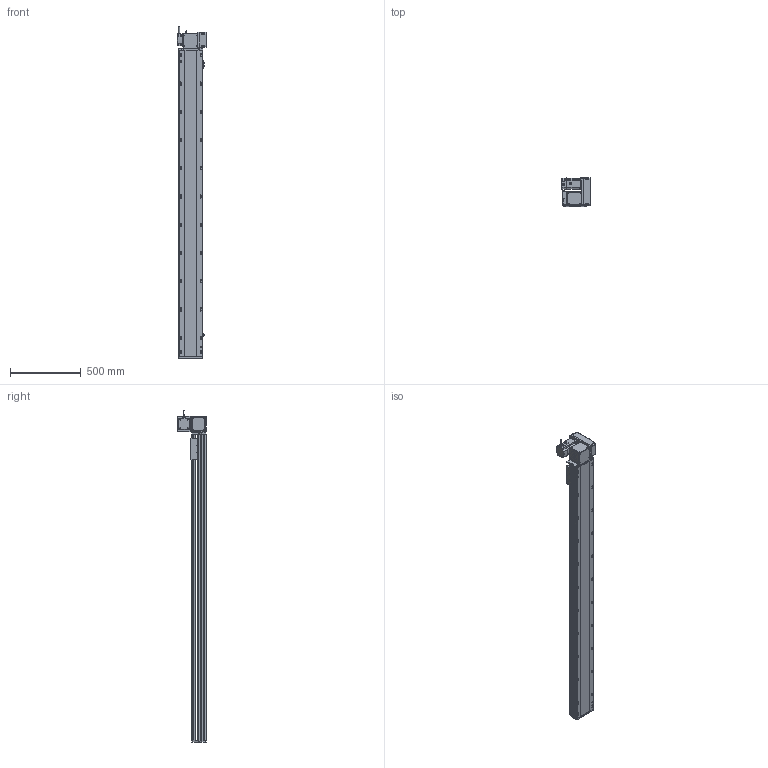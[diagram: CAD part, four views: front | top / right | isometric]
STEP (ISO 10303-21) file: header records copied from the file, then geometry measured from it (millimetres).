
FILE_DESCRIPTION (( 'STEP AP214' ), '1' );
FILE_NAME ('RTB17S-XX-1900-RW-M75-C4.STEP', '2025-12-12T02:41:33', ( '' ), ( '' ), 'SwSTEP 2.0', 'SolidWorks 2018', '' );
FILE_SCHEMA (( 'AUTOMOTIVE_DESIGN' ));
Length unit declared in the file: millimetre
Products named in the file (15): 750W萇儂^RTB17S-XX-XX-RW-M75-C4; RTB17S-RW-々湍釱蚾饜-750W^RTB17S-XX-XX-RW-M75-C4; RTB17S-XX-1900-RW-M75-C4; RTB17S-L-007奻裔^RTB17S-XX-XX-RW-M75-C4; RTB22S-GY-018P^RTB17S-RW-々湍釱蚾饜-750W_RTB17S-XX-XX-RW-M75-C4; RTB17S-賑釱^RTB17S-XX-XX-RW-M75-C4; RTB17S-L-004-賑釱^RTB17S-賑釱_RTB17S-XX-XX-RW-M75-C4; RTH13-BL-012覜茼え俋离^RTB17S-賑釱_RTB17S-XX-XX-RW-M75-C4; RMP17S-L-014-T20-P75--々湍釱^RTB17S-RW-々湍釱蚾饜-750W_RTB17S-XX-XX-RW-M75-C4; RTB22S-GY-008-M75--萇儂啣^RTB17S-RW-々湍釱蚾饜-750W_RTB17S-XX-XX-RW-M75-C4; EE672^RTB17S-XX-XX-RW-M75-C4; RTB22S-GY-005P^RTB17S-RW-々湍釱蚾饜-750W_RTB17S-XX-XX-RW-M75-C4; RTB22S-GY-017P^RTB17S-RW-々湍釱蚾饜-750W_RTB17S-XX-XX-RW-M75-C4; RTB17S-L-001-耜醱啣^RTB17S-XX-XX-RW-M75-C4; RTB17-R-011菁釱^RTB17S-XX-XX-RW-M75-C4
Assembly tree (17 placements, depth 3):
  RTB17S-XX-1900-RW-M75-C4
    RTB17-R-011菁釱^RTB17S-XX-XX-RW-M75-C4
    EE672^RTB17S-XX-XX-RW-M75-C4  x3
    RTB17S-L-001-耜醱啣^RTB17S-XX-XX-RW-M75-C4
    RTB17S-賑釱^RTB17S-XX-XX-RW-M75-C4
      RTB17S-L-004-賑釱^RTB17S-賑釱_RTB17S-XX-XX-RW-M75-C4
      RTH13-BL-012覜茼え俋离^RTB17S-賑釱_RTB17S-XX-XX-RW-M75-C4
    RTB17S-L-007奻裔^RTB17S-XX-XX-RW-M75-C4
    750W萇儂^RTB17S-XX-XX-RW-M75-C4
    RTB17S-RW-々湍釱蚾饜-750W^RTB17S-XX-XX-RW-M75-C4
      RMP17S-L-014-T20-P75--々湍釱^RTB17S-RW-々湍釱蚾饜-750W_RTB17S-XX-XX-RW-M75-C4
      RTB22S-GY-005P^RTB17S-RW-々湍釱蚾饜-750W_RTB17S-XX-XX-RW-M75-C4
      RTB22S-GY-017P^RTB17S-RW-々湍釱蚾饜-750W_RTB17S-XX-XX-RW-M75-C4  x2
      RTB22S-GY-008-M75--萇儂啣^RTB17S-RW-々湍釱蚾饜-750W_RTB17S-XX-XX-RW-M75-C4
      RTB22S-GY-018P^RTB17S-RW-々湍釱蚾饜-750W_RTB17S-XX-XX-RW-M75-C4
Bounding box: 207.4 x 201.5 x 2352.2 mm (x, y, z)
Volume: 17824560.9 mm3; surface area: 3177314.7 mm2
Topology: 17 solids, 17 shells, 2169 faces, 6052 edges, 3914 vertices
Faces by surface type: plane 980, cylinder 773, bspline 294, cone 110, sphere 8, torus 4
Entity records: 61942 total; most frequent: CARTESIAN_POINT 18316, ORIENTED_EDGE 8948, DIRECTION 8312, EDGE_CURVE 4474, AXIS2_PLACEMENT_3D 2934, VERTEX_POINT 2918, VECTOR 2444, LINE 2444
